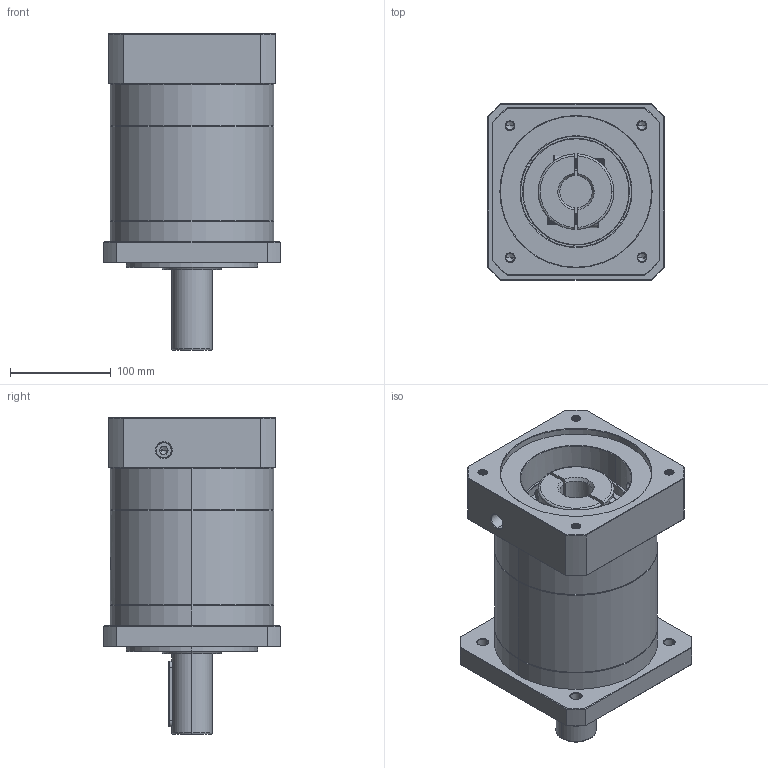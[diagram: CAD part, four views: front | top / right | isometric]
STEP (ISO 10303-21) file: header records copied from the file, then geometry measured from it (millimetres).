
FILE_DESCRIPTION (( 'STEP AP214' ), '1' );
FILE_NAME ('ZF160A-D40-L2-P2-32-150-185-M10.step', '2023-09-03T06:59:01', ( '' ), ( '' ), 'SwSTEP 2.0', 'SolidWorks 2016', '' );
FILE_SCHEMA (( 'AUTOMOTIVE_DESIGN' ));
Length unit declared in the file: millimetre
Products named in the file (1): ZF160A-D40-L2-P2-32-150-185-M10
Bounding box: 175 x 175 x 314.2 mm (x, y, z)
Volume: 4866755.2 mm3; surface area: 348941.1 mm2
Topology: 6 solids, 6 shells, 2205 faces, 5957 edges, 3857 vertices
Faces by surface type: plane 1017, cylinder 429, bspline 411, cone 326, torus 22
Entity records: 125510 total; most frequent: CARTESIAN_POINT 51039, ORIENTED_EDGE 11854, DIRECTION 8650, EDGE_CURVE 5927, VERTEX_POINT 3857, LINE 3070, VECTOR 3070, AXIS2_PLACEMENT_3D 2790
